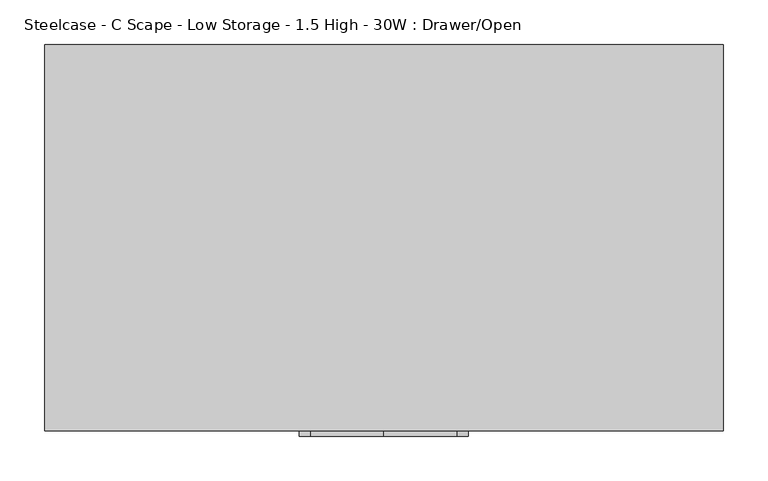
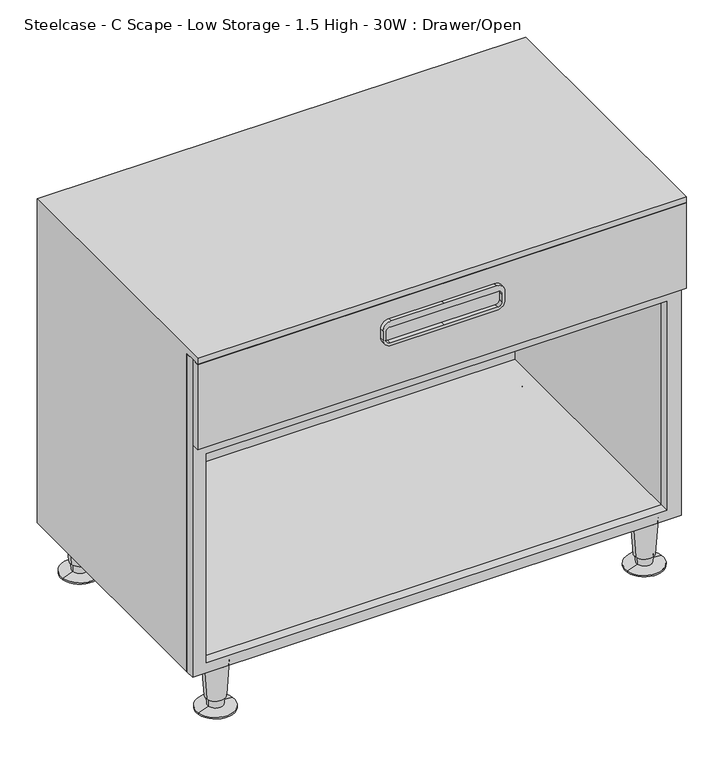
"""IFC4 building model written with IfcOpenShell, lengths in millimetres: furniture geometry, Steelcase - C Scape - Low Storage - 1.5 High - 30W : Drawer/Open."""

from ifc_helpers import new_model, si_unit, point, frame, frame_2d, origin, place, context, project, spatial, polyline, circle_curve, trimmed, segment, composite_curve, outline, extrude, faceted_brep, source, transform, mapped, element, save
from ifc_brep_helpers import plane_surface, cylinder_surface, revolved_surface, advanced_brep


def steelcase_c_scape_low_storage_1_5_high_30w_drawer_open_a20cbbc0(model_context):
    return source(origin(), model_context, "Body", "SolidModel", [
        extrude(outline(polyline([(599.4499291, 0.0), (76.2, 0.0), (76.2, 760.73), (599.4499291, 760.73), (599.4499291, 320.0585382), (599.4499291, 0.0)]), holes=[polyline([(458.7875121, 21.3382324), (582.9399291, 21.3382324), (582.9399291, 738.7617285), (458.7875121, 738.7617285), (458.7875121, 21.3382324)]), polyline([(436.841904, 21.3256814), (436.841904, 738.7617285), (92.7100024, 738.7617285), (92.7100024, 21.3256814), (436.841904, 21.3256814)])]), frame((0.0, -419.3540543, 0.0), z_axis=(0.0, 1.0, 0.0), x_axis=(0.0, 0.0, 1.0)), (0.0, 0.0, 1.0), 14.9860039),
        extrude(outline(composite_curve([segment(trimmed(circle_curve(frame_2d((558.1749291, 297.8147442)), 12.7), [point((570.8749291, 297.8147442))], [point((558.1749291, 285.1147442))], False, "CARTESIAN"), True, "CONTINUOUS"), segment(polyline([(558.1749291, 285.1147442), (543.5699582, 285.1147442)]), True, "CONTINUOUS"), segment(trimmed(circle_curve(frame_2d((543.5699582, 297.8147442)), 12.7), [point((543.5699582, 285.1147442))], [point((530.8699582, 297.8147442))], False, "CARTESIAN"), True, "CONTINUOUS"), segment(polyline([(530.8699582, 297.8147442), (530.8699582, 380.0475), (530.8699582, 462.2802558)]), True, "CONTINUOUS"), segment(trimmed(circle_curve(frame_2d((543.5699582, 462.2802558)), 12.7), [point((530.8699582, 462.2802558))], [point((543.5699582, 474.9802558))], False, "CARTESIAN"), True, "CONTINUOUS"), segment(polyline([(543.5699582, 474.9802558), (558.1749291, 474.9802558)]), True, "CONTINUOUS"), segment(trimmed(circle_curve(frame_2d((558.1749291, 462.2802558)), 12.7), [point((558.1749291, 474.9802558))], [point((570.8749291, 462.2802558))], False, "CARTESIAN"), True, "CONTINUOUS"), segment(polyline([(570.8749291, 462.2802558), (570.8749291, 380.0475), (570.8749291, 297.8147442)]), True, "CONTINUOUS")], self_intersect=False), holes=[composite_curve([segment(trimmed(circle_curve(frame_2d((554.7459476, 296.2923565)), 6.35), [point((554.7459476, 289.9423565))], [point((561.0959476, 296.2923565))], True, "CARTESIAN"), True, "CONTINUOUS"), segment(polyline([(561.0959476, 296.2923565), (561.0959476, 380.0475), (561.0959476, 463.8026435)]), True, "CONTINUOUS"), segment(trimmed(circle_curve(frame_2d((554.7459476, 463.8026435)), 6.35), [point((561.0959476, 463.8026435))], [point((554.7459476, 470.1526435))], True, "CARTESIAN"), True, "CONTINUOUS"), segment(polyline([(554.7459476, 470.1526435), (542.0459354, 470.1526435)]), True, "CONTINUOUS"), segment(trimmed(circle_curve(frame_2d((542.0459354, 463.8026435)), 6.35), [point((542.0459354, 470.1526435))], [point((535.6959354, 463.8026435))], True, "CARTESIAN"), True, "CONTINUOUS"), segment(polyline([(535.6959354, 463.8026435), (535.6959354, 380.0475), (535.6959354, 296.2923565)]), True, "CONTINUOUS"), segment(trimmed(circle_curve(frame_2d((542.0459354, 296.2923565)), 6.35), [point((535.6959354, 296.2923565))], [point((542.0459354, 289.9423565))], True, "CARTESIAN"), True, "CONTINUOUS"), segment(polyline([(542.0459354, 289.9423565), (554.7459476, 289.9423565)]), True, "CONTINUOUS")], self_intersect=False)]), frame((0.0, -439.42, 0.0), z_axis=(0.0, 1.0, 0.0), x_axis=(0.0, 0.0, 1.0)), (0.0, 0.0, 1.0), 6.35),
        advanced_brep(
        [(65.5422821, -397.1702762, 76.2), (27.8805432, -402.9325174, 76.2), (46.7114126, -400.0513968, 76.2), (61.5919341, -397.774679, 19.05), (31.8308912, -402.3281146, 19.05), (59.1623471, -398.1464055, 19.05), (34.2604781, -401.9563882, 19.05), (58.4735776, -398.2517871, 5.7545598), (34.9492476, -401.8510065, 5.7545598), (75.8224611, -395.5974102, 2.5119506), (17.6003641, -404.5053834, 2.5119506), (75.8224611, -395.5974102, 0.0), (17.6003641, -404.5053834, 0.0), (46.7114126, -400.0513968, 0.0)],
        [
            (0, 1, circle_curve(frame((46.7114126, -400.0513968, 76.2), z_axis=(0.0, 0.0, 1.0), x_axis=(0.0, -1.0, 0.0)), 19.05)),
            (1, 2),
            (2, 0),
            (1, 0, circle_curve(frame((46.7114126, -400.0513968, 76.2), z_axis=(0.0, 0.0, 1.0), x_axis=(0.0, -1.0, 0.0)), 19.05)),
            (3, 4, circle_curve(frame((46.7114126, -400.0513968, 19.05), z_axis=(0.0, 0.0, 1.0), x_axis=(0.0, -1.0, 0.0)), 15.0536827)),
            (4, 1),
            (0, 3),
            (4, 3, circle_curve(frame((46.7114126, -400.0513968, 19.05), z_axis=(0.0, 0.0, 1.0), x_axis=(0.0, -1.0, 0.0)), 15.0536827)),
            (5, 6, circle_curve(frame((46.7114126, -400.0513968, 19.05), z_axis=(0.0, 0.0, 1.0), x_axis=(0.0, -1.0, 0.0)), 12.5958232)),
            (6, 4),
            (3, 5),
            (6, 5, circle_curve(frame((46.7114126, -400.0513968, 19.05), z_axis=(0.0, 0.0, 1.0), x_axis=(0.0, -1.0, 0.0)), 12.5958232)),
            (7, 8, circle_curve(frame((46.7114126, -400.0513968, 5.7545598), z_axis=(0.0, 0.0, 1.0), x_axis=(0.0, -1.0, 0.0)), 11.8990387)),
            (8, 6),
            (5, 7),
            (8, 7, circle_curve(frame((46.7114126, -400.0513968, 5.7545598), z_axis=(0.0, 0.0, 1.0), x_axis=(0.0, -1.0, 0.0)), 11.8990387)),
            (9, 10, circle_curve(frame((46.7114126, -400.0513968, 2.5119506), z_axis=(0.0, 0.0, 1.0), x_axis=(0.0, -1.0, 0.0)), 29.4498071)),
            (10, 8),
            (7, 9),
            (10, 9, circle_curve(frame((46.7114126, -400.0513968, 2.5119506), z_axis=(0.0, 0.0, 1.0), x_axis=(0.0, -1.0, 0.0)), 29.4498071)),
            (11, 12, circle_curve(frame((46.7114126, -400.0513968, 0.0), z_axis=(0.0, 0.0, 1.0), x_axis=(0.0, -1.0, 0.0)), 29.4498071)),
            (12, 10),
            (9, 11),
            (12, 11, circle_curve(frame((46.7114126, -400.0513968, 0.0), z_axis=(0.0, 0.0, 1.0), x_axis=(0.0, -1.0, 0.0)), 29.4498071)),
            (13, 12),
            (11, 13),
        ],
        [
            plane_surface(frame((46.7114126, -400.0513968, 76.2), z_axis=(0.0, 0.0, 1.0), x_axis=(0.0, -1.0, 0.0))),
            revolved_surface(polyline([(46.7114126, -419.1013968, 76.2), (46.7114126, -415.1050795, 19.05)]), (46.7114126, -400.0513968, 25.4), (0.0, 0.0, -1.0)),
            plane_surface(frame((46.7114126, -400.0513968, 19.05), z_axis=(0.0, 0.0, -1.0), x_axis=(0.0, -1.0, 0.0))),
            revolved_surface(polyline([(46.7114126, -412.64722, 19.05), (46.7114126, -411.9504355, 5.7545598)]), (46.7114126, -400.0513968, 25.4), (0.0, 0.0, -1.0)),
            revolved_surface(polyline([(46.7114126, -411.9504355, 5.7545598), (46.7114126, -429.5012039, 2.5119506)]), (46.7114126, -400.0513968, 25.4), (0.0, 0.0, -1.0)),
            cylinder_surface(frame((46.7114126, -400.0513968, 25.4), z_axis=(0.0, 0.0, -1.0), x_axis=(0.0, -1.0, 0.0)), 29.4498071),
            plane_surface(frame((46.7114126, -400.0513968, 0.0), z_axis=(0.0, 0.0, -1.0), x_axis=(0.0, -1.0, 0.0))),
        ],
        [
            (0, [[1, 2, 3]]),
            (0, [[4, -3, -2]]),
            (1, [[5, 6, -1, 7]]),
            (1, [[8, -7, -4, -6]]),
            (2, [[9, 10, -5, 11]]),
            (2, [[12, -11, -8, -10]]),
            (3, [[13, 14, -9, 15]]),
            (3, [[16, -15, -12, -14]]),
            (4, [[17, 18, -13, 19]]),
            (4, [[20, -19, -16, -18]]),
            (5, [[21, 22, -17, 23]]),
            (5, [[24, -23, -20, -22]]),
            (6, [[25, -21, 26]]),
            (6, [[-26, -24, -25]]),
        ],
    ),
        advanced_brep(
        [(733.4598695, -397.1702762, 76.2), (695.7981305, -402.9325174, 76.2), (714.629, -400.0513968, 76.2), (729.5095214, -397.774679, 19.05), (699.7484786, -402.3281146, 19.05), (727.0799345, -398.1464055, 19.05), (702.1780655, -401.9563882, 19.05), (726.391165, -398.2517871, 5.7545598), (702.866835, -401.8510065, 5.7545598), (743.7400485, -395.5974102, 2.5119506), (685.5179515, -404.5053834, 2.5119506), (743.7400485, -395.5974102, 0.0), (685.5179515, -404.5053834, 0.0), (714.629, -400.0513968, 0.0)],
        [
            (0, 1, circle_curve(frame((714.629, -400.0513968, 76.2), z_axis=(0.0, 0.0, 1.0), x_axis=(0.0, -1.0, 0.0)), 19.05)),
            (1, 2),
            (2, 0),
            (1, 0, circle_curve(frame((714.629, -400.0513968, 76.2), z_axis=(0.0, 0.0, 1.0), x_axis=(0.0, -1.0, 0.0)), 19.05)),
            (3, 4, circle_curve(frame((714.629, -400.0513968, 19.05), z_axis=(0.0, 0.0, 1.0), x_axis=(0.0, -1.0, 0.0)), 15.0536827)),
            (4, 1),
            (0, 3),
            (4, 3, circle_curve(frame((714.629, -400.0513968, 19.05), z_axis=(0.0, 0.0, 1.0), x_axis=(0.0, -1.0, 0.0)), 15.0536827)),
            (5, 6, circle_curve(frame((714.629, -400.0513968, 19.05), z_axis=(0.0, 0.0, 1.0), x_axis=(0.0, -1.0, 0.0)), 12.5958232)),
            (6, 4),
            (3, 5),
            (6, 5, circle_curve(frame((714.629, -400.0513968, 19.05), z_axis=(0.0, 0.0, 1.0), x_axis=(0.0, -1.0, 0.0)), 12.5958232)),
            (7, 8, circle_curve(frame((714.629, -400.0513968, 5.7545598), z_axis=(0.0, 0.0, 1.0), x_axis=(0.0, -1.0, 0.0)), 11.8990387)),
            (8, 6),
            (5, 7),
            (8, 7, circle_curve(frame((714.629, -400.0513968, 5.7545598), z_axis=(0.0, 0.0, 1.0), x_axis=(0.0, -1.0, 0.0)), 11.8990387)),
            (9, 10, circle_curve(frame((714.629, -400.0513968, 2.5119506), z_axis=(0.0, 0.0, 1.0), x_axis=(0.0, -1.0, 0.0)), 29.4498071)),
            (10, 8),
            (7, 9),
            (10, 9, circle_curve(frame((714.629, -400.0513968, 2.5119506), z_axis=(0.0, 0.0, 1.0), x_axis=(0.0, -1.0, 0.0)), 29.4498071)),
            (11, 12, circle_curve(frame((714.629, -400.0513968, 0.0), z_axis=(0.0, 0.0, 1.0), x_axis=(0.0, -1.0, 0.0)), 29.4498071)),
            (12, 10),
            (9, 11),
            (12, 11, circle_curve(frame((714.629, -400.0513968, 0.0), z_axis=(0.0, 0.0, 1.0), x_axis=(0.0, -1.0, 0.0)), 29.4498071)),
            (13, 12),
            (11, 13),
        ],
        [
            plane_surface(frame((714.629, -400.0513968, 76.2), z_axis=(0.0, 0.0, 1.0), x_axis=(0.0, -1.0, 0.0))),
            revolved_surface(polyline([(714.629, -419.1013968, 76.2), (714.629, -415.1050795, 19.05)]), (714.629, -400.0513968, 25.4), (0.0, 0.0, -1.0)),
            plane_surface(frame((714.629, -400.0513968, 19.05), z_axis=(0.0, 0.0, -1.0), x_axis=(0.0, -1.0, 0.0))),
            revolved_surface(polyline([(714.629, -412.64722, 19.05), (714.629, -411.9504355, 5.7545598)]), (714.629, -400.0513968, 25.4), (0.0, 0.0, -1.0)),
            revolved_surface(polyline([(714.629, -411.9504355, 5.7545598), (714.629, -429.5012039, 2.5119506)]), (714.629, -400.0513968, 25.4), (0.0, 0.0, -1.0)),
            cylinder_surface(frame((714.629, -400.0513968, 25.4), z_axis=(0.0, 0.0, -1.0), x_axis=(0.0, -1.0, 0.0)), 29.4498071),
            plane_surface(frame((714.629, -400.0513968, 0.0), z_axis=(0.0, 0.0, -1.0), x_axis=(0.0, -1.0, 0.0))),
        ],
        [
            (0, [[1, 2, 3]]),
            (0, [[4, -3, -2]]),
            (1, [[5, 6, -1, 7]]),
            (1, [[8, -7, -4, -6]]),
            (2, [[9, 10, -5, 11]]),
            (2, [[12, -11, -8, -10]]),
            (3, [[13, 14, -9, 15]]),
            (3, [[16, -15, -12, -14]]),
            (4, [[17, 18, -13, 19]]),
            (4, [[20, -19, -16, -18]]),
            (5, [[21, 22, -17, 23]]),
            (5, [[24, -23, -20, -22]]),
            (6, [[25, -21, 26]]),
            (6, [[-26, -24, -25]]),
        ],
    ),
        advanced_brep(
        [(733.4598695, -31.5218435, 76.2), (695.7981305, -37.2840847, 76.2), (714.629, -34.4029641, 76.2), (729.5095214, -32.1262463, 19.05), (699.7484786, -36.6796819, 19.05), (727.0799345, -32.4979728, 19.05), (702.1780655, -36.3079555, 19.05), (726.391165, -32.6033544, 5.7545598), (702.866835, -36.2025738, 5.7545598), (743.7400485, -29.9489775, 2.5119506), (685.5179515, -38.8569507, 2.5119506), (743.7400485, -29.9489775, 0.0), (685.5179515, -38.8569507, 0.0), (714.629, -34.4029641, 0.0)],
        [
            (0, 1, circle_curve(frame((714.629, -34.4029641, 76.2), z_axis=(0.0, 0.0, 1.0), x_axis=(0.0, -1.0, 0.0)), 19.05)),
            (1, 2),
            (2, 0),
            (1, 0, circle_curve(frame((714.629, -34.4029641, 76.2), z_axis=(0.0, 0.0, 1.0), x_axis=(0.0, -1.0, 0.0)), 19.05)),
            (3, 4, circle_curve(frame((714.629, -34.4029641, 19.05), z_axis=(0.0, 0.0, 1.0), x_axis=(0.0, -1.0, 0.0)), 15.0536827)),
            (4, 1),
            (0, 3),
            (4, 3, circle_curve(frame((714.629, -34.4029641, 19.05), z_axis=(0.0, 0.0, 1.0), x_axis=(0.0, -1.0, 0.0)), 15.0536827)),
            (5, 6, circle_curve(frame((714.629, -34.4029641, 19.05), z_axis=(0.0, 0.0, 1.0), x_axis=(0.0, -1.0, 0.0)), 12.5958232)),
            (6, 4),
            (3, 5),
            (6, 5, circle_curve(frame((714.629, -34.4029641, 19.05), z_axis=(0.0, 0.0, 1.0), x_axis=(0.0, -1.0, 0.0)), 12.5958232)),
            (7, 8, circle_curve(frame((714.629, -34.4029641, 5.7545598), z_axis=(0.0, 0.0, 1.0), x_axis=(0.0, -1.0, 0.0)), 11.8990387)),
            (8, 6),
            (5, 7),
            (8, 7, circle_curve(frame((714.629, -34.4029641, 5.7545598), z_axis=(0.0, 0.0, 1.0), x_axis=(0.0, -1.0, 0.0)), 11.8990387)),
            (9, 10, circle_curve(frame((714.629, -34.4029641, 2.5119506), z_axis=(0.0, 0.0, 1.0), x_axis=(0.0, -1.0, 0.0)), 29.4498071)),
            (10, 8),
            (7, 9),
            (10, 9, circle_curve(frame((714.629, -34.4029641, 2.5119506), z_axis=(0.0, 0.0, 1.0), x_axis=(0.0, -1.0, 0.0)), 29.4498071)),
            (11, 12, circle_curve(frame((714.629, -34.4029641, 0.0), z_axis=(0.0, 0.0, 1.0), x_axis=(0.0, -1.0, 0.0)), 29.4498071)),
            (12, 10),
            (9, 11),
            (12, 11, circle_curve(frame((714.629, -34.4029641, 0.0), z_axis=(0.0, 0.0, 1.0), x_axis=(0.0, -1.0, 0.0)), 29.4498071)),
            (13, 12),
            (11, 13),
        ],
        [
            plane_surface(frame((714.629, -34.4029641, 76.2), z_axis=(0.0, 0.0, 1.0), x_axis=(0.0, -1.0, 0.0))),
            revolved_surface(polyline([(714.629, -53.4529641, 76.2), (714.629, -49.4566468, 19.05)]), (714.629, -34.4029641, 25.4), (0.0, 0.0, -1.0)),
            plane_surface(frame((714.629, -34.4029641, 19.05), z_axis=(0.0, 0.0, -1.0), x_axis=(0.0, -1.0, 0.0))),
            revolved_surface(polyline([(714.629, -46.9987873, 19.05), (714.629, -46.3020028, 5.7545598)]), (714.629, -34.4029641, 25.4), (0.0, 0.0, -1.0)),
            revolved_surface(polyline([(714.629, -46.3020028, 5.7545598), (714.629, -63.8527712, 2.5119506)]), (714.629, -34.4029641, 25.4), (0.0, 0.0, -1.0)),
            cylinder_surface(frame((714.629, -34.4029641, 25.4), z_axis=(0.0, 0.0, -1.0), x_axis=(0.0, -1.0, 0.0)), 29.4498071),
            plane_surface(frame((714.629, -34.4029641, 0.0), z_axis=(0.0, 0.0, -1.0), x_axis=(0.0, -1.0, 0.0))),
        ],
        [
            (0, [[1, 2, 3]]),
            (0, [[4, -3, -2]]),
            (1, [[5, 6, -1, 7]]),
            (1, [[8, -7, -4, -6]]),
            (2, [[9, 10, -5, 11]]),
            (2, [[12, -11, -8, -10]]),
            (3, [[13, 14, -9, 15]]),
            (3, [[16, -15, -12, -14]]),
            (4, [[17, 18, -13, 19]]),
            (4, [[20, -19, -16, -18]]),
            (5, [[21, 22, -17, 23]]),
            (5, [[24, -23, -20, -22]]),
            (6, [[25, -21, 26]]),
            (6, [[-26, -24, -25]]),
        ],
    ),
        advanced_brep(
        [(65.5422821, -31.5218435, 76.2), (27.8805432, -37.2840847, 76.2), (46.7114126, -34.4029641, 76.2), (61.5919341, -32.1262463, 19.05), (31.8308912, -36.6796819, 19.05), (59.1623471, -32.4979728, 19.05), (34.2604781, -36.3079555, 19.05), (58.4735776, -32.6033544, 5.7545598), (34.9492476, -36.2025738, 5.7545598), (75.8224611, -29.9489775, 2.5119506), (17.6003641, -38.8569507, 2.5119506), (75.8224611, -29.9489775, 0.0), (17.6003641, -38.8569507, 0.0), (46.7114126, -34.4029641, 0.0)],
        [
            (0, 1, circle_curve(frame((46.7114126, -34.4029641, 76.2), z_axis=(0.0, 0.0, 1.0), x_axis=(0.0, -1.0, 0.0)), 19.05)),
            (1, 2),
            (2, 0),
            (1, 0, circle_curve(frame((46.7114126, -34.4029641, 76.2), z_axis=(0.0, 0.0, 1.0), x_axis=(0.0, -1.0, 0.0)), 19.05)),
            (3, 4, circle_curve(frame((46.7114126, -34.4029641, 19.05), z_axis=(0.0, 0.0, 1.0), x_axis=(0.0, -1.0, 0.0)), 15.0536827)),
            (4, 1),
            (0, 3),
            (4, 3, circle_curve(frame((46.7114126, -34.4029641, 19.05), z_axis=(0.0, 0.0, 1.0), x_axis=(0.0, -1.0, 0.0)), 15.0536827)),
            (5, 6, circle_curve(frame((46.7114126, -34.4029641, 19.05), z_axis=(0.0, 0.0, 1.0), x_axis=(0.0, -1.0, 0.0)), 12.5958232)),
            (6, 4),
            (3, 5),
            (6, 5, circle_curve(frame((46.7114126, -34.4029641, 19.05), z_axis=(0.0, 0.0, 1.0), x_axis=(0.0, -1.0, 0.0)), 12.5958232)),
            (7, 8, circle_curve(frame((46.7114126, -34.4029641, 5.7545598), z_axis=(0.0, 0.0, 1.0), x_axis=(0.0, -1.0, 0.0)), 11.8990387)),
            (8, 6),
            (5, 7),
            (8, 7, circle_curve(frame((46.7114126, -34.4029641, 5.7545598), z_axis=(0.0, 0.0, 1.0), x_axis=(0.0, -1.0, 0.0)), 11.8990387)),
            (9, 10, circle_curve(frame((46.7114126, -34.4029641, 2.5119506), z_axis=(0.0, 0.0, 1.0), x_axis=(0.0, -1.0, 0.0)), 29.4498071)),
            (10, 8),
            (7, 9),
            (10, 9, circle_curve(frame((46.7114126, -34.4029641, 2.5119506), z_axis=(0.0, 0.0, 1.0), x_axis=(0.0, -1.0, 0.0)), 29.4498071)),
            (11, 12, circle_curve(frame((46.7114126, -34.4029641, 0.0), z_axis=(0.0, 0.0, 1.0), x_axis=(0.0, -1.0, 0.0)), 29.4498071)),
            (12, 10),
            (9, 11),
            (12, 11, circle_curve(frame((46.7114126, -34.4029641, 0.0), z_axis=(0.0, 0.0, 1.0), x_axis=(0.0, -1.0, 0.0)), 29.4498071)),
            (13, 12),
            (11, 13),
        ],
        [
            plane_surface(frame((46.7114126, -34.4029641, 76.2), z_axis=(0.0, 0.0, 1.0), x_axis=(0.0, -1.0, 0.0))),
            revolved_surface(polyline([(46.7114126, -53.4529641, 76.2), (46.7114126, -49.4566468, 19.05)]), (46.7114126, -34.4029641, 25.4), (0.0, 0.0, -1.0)),
            plane_surface(frame((46.7114126, -34.4029641, 19.05), z_axis=(0.0, 0.0, -1.0), x_axis=(0.0, -1.0, 0.0))),
            revolved_surface(polyline([(46.7114126, -46.9987873, 19.05), (46.7114126, -46.3020028, 5.7545598)]), (46.7114126, -34.4029641, 25.4), (0.0, 0.0, -1.0)),
            revolved_surface(polyline([(46.7114126, -46.3020028, 5.7545598), (46.7114126, -63.8527712, 2.5119506)]), (46.7114126, -34.4029641, 25.4), (0.0, 0.0, -1.0)),
            cylinder_surface(frame((46.7114126, -34.4029641, 25.4), z_axis=(0.0, 0.0, -1.0), x_axis=(0.0, -1.0, 0.0)), 29.4498071),
            plane_surface(frame((46.7114126, -34.4029641, 0.0), z_axis=(0.0, 0.0, -1.0), x_axis=(0.0, -1.0, 0.0))),
        ],
        [
            (0, [[1, 2, 3]]),
            (0, [[4, -3, -2]]),
            (1, [[5, 6, -1, 7]]),
            (1, [[8, -7, -4, -6]]),
            (2, [[9, 10, -5, 11]]),
            (2, [[12, -11, -8, -10]]),
            (3, [[13, 14, -9, 15]]),
            (3, [[16, -15, -12, -14]]),
            (4, [[17, 18, -13, 19]]),
            (4, [[20, -19, -16, -18]]),
            (5, [[21, 22, -17, 23]]),
            (5, [[24, -23, -20, -22]]),
            (6, [[25, -21, 26]]),
            (6, [[-26, -24, -25]]),
        ],
    ),
        extrude(outline(polyline([(760.73, -419.3540543), (760.73, -433.07), (0.0, -433.07), (0.0, -419.3540543), (760.73, -419.3540543)])), frame((0.0, 0.0, 458.7875121), z_axis=(0.0, 0.0, 1.0), x_axis=(1.0, 0.0, 0.0)), (0.0, 0.0, 1.0), 140.662417),
        faceted_brep([(0.0, 0.0, 609.6), (760.73, 0.0, 609.6), (760.73, 0.0, 76.2), (0.0, 0.0, 76.2), (0.0, -433.07, 609.6), (0.0, -404.3680504, 76.2), (0.0, -404.3680504, 599.4499291), (0.0, -433.07, 599.4499291), (21.3382324, -404.3680504, 599.4499291), (760.73, -404.3680504, 76.2), (760.73, -404.3680504, 599.4499291), (738.7617285, -404.3680504, 599.4499291), (738.7617285, -404.3680504, 458.7875121), (21.3382324, -404.3680504, 458.7875121), (738.7617285, -404.3680504, 450.8499879), (738.7617285, -404.3680504, 92.7100024), (21.3382324, -404.3680504, 92.7100024), (21.3382324, -404.3680504, 450.8499879), (21.3382324, -9.525, 599.4499291), (21.3382324, -9.525, 458.7875121), (21.3382324, -9.525, 92.7100024), (21.3382324, -9.525, 450.8499879), (738.7617285, -9.525, 599.4499291), (738.7617285, -9.525, 458.7875121), (738.7617285, -9.525, 92.7100024), (738.7617285, -9.525, 450.8499879), (760.73, -433.07, 609.6), (760.73, -433.07, 599.4499291)], [[[0, 1, 2, 3]], [[4, 0, 3, 5, 6, 7]], [[8, 6, 5, 9, 10, 11, 12, 13], [14, 15, 16, 17]], [[18, 8, 13, 19]], [[17, 16, 20, 21]], [[22, 18, 19, 23]], [[21, 20, 24, 25]], [[11, 22, 23, 12]], [[25, 24, 15, 14]], [[2, 1, 26, 27, 10, 9]], [[1, 0, 4, 26]], [[27, 7, 6, 8, 18, 22, 11, 10]], [[26, 4, 7, 27]], [[13, 12, 23, 19]], [[14, 17, 21, 25]], [[16, 15, 24, 20]], [[2, 9, 5, 3]]]),
    ])


if __name__ == "__main__":
    model = new_model("IFC4")
    model_context = context("Model", 3, world=origin())
    ifc_project = project(units=[si_unit("LENGTHUNIT", "METRE", prefix="MILLI")], contexts=[model_context])
    site = spatial("IfcSite", under=ifc_project)
    building = spatial("IfcBuilding", under=site)
    placement = place(None, origin())
    steelcase_c_scape_low_storage_1_5_high_30w_drawer_open_shape = steelcase_c_scape_low_storage_1_5_high_30w_drawer_open_a20cbbc0(model_context)
    element("IfcFurniture", 1, ObjectType="Steelcase - C Scape - Low Storage - 1.5 High - 30W : Drawer/Open", at=placement, inside=building, context=model_context, shape_type="MappedRepresentation", body=[
        mapped(steelcase_c_scape_low_storage_1_5_high_30w_drawer_open_shape, transform((0.0, 0.0, 0.0), x_axis=(1.0, 0.0, 0.0), y_axis=(0.0, 1.0, 0.0), z_axis=(0.0, 0.0, 1.0))),
    ])
    save(model, "model.ifc")
